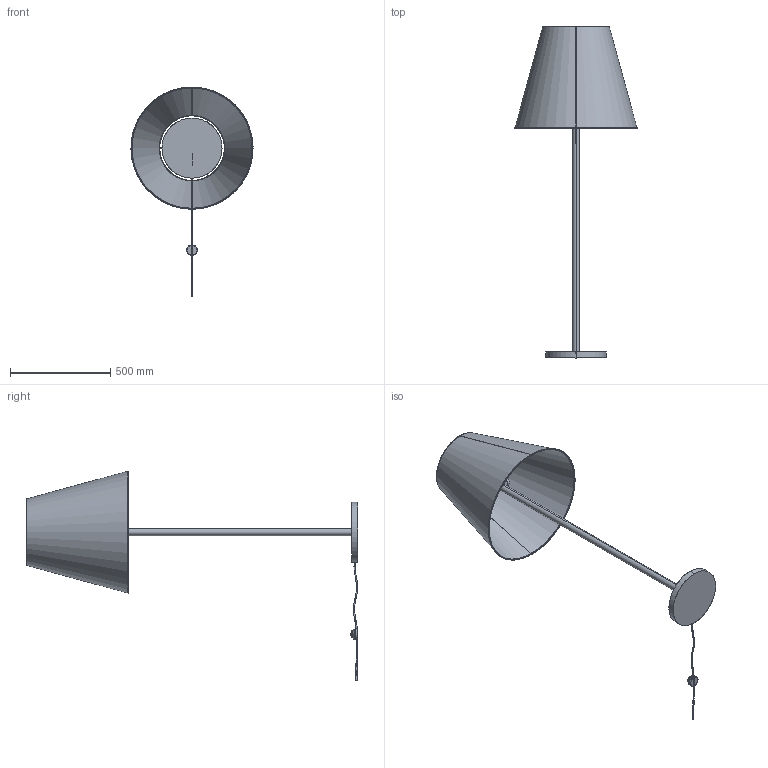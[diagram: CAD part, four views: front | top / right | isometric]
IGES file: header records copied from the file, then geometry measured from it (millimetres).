
Start section: SolidWorks IGES file using analytic representation for surfaces
Global section: file name: E:\3D lampy\Moss\Moss_9736.IGS; native system: SolidWorks 2016; preprocessor: SolidWorks 2016; author: Asia; date: 170726.134950; units: millimetre
Bounding box: 610.53 x 1658.62 x 1049.15 mm (x, y, z)
Surface area: 2099221.3 mm2 (no closed solid volume)
Topology: 0 solids, 0 shells, 829 faces, 10396 edges, 10312 vertices
Faces by surface type: bspline 464, revolution 365
